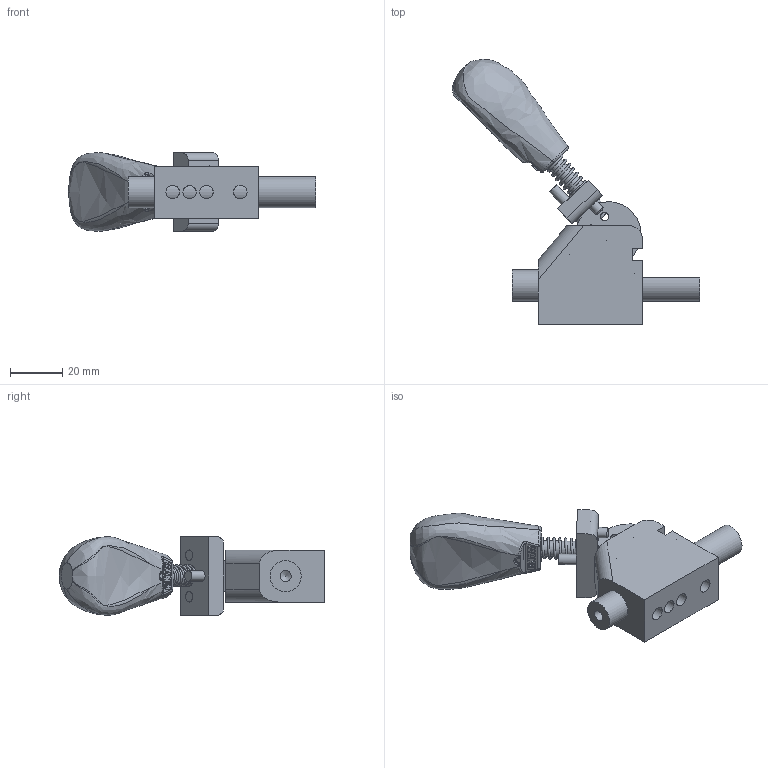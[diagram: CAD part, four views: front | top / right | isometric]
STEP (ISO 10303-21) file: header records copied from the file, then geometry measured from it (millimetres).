
FILE_DESCRIPTION(/* description */ (''),/* implementation_level */ '2;1');
FILE_NAME(/* name */ '\\192.168.1.150\pc03\Inventor\デュアルメカニズムクランプ最終\2017.10月　最新型\YSP-22ST-L\YSP-22ST-L-UNCLAMP.stp',/* time_stamp */ '2024-05-14T16:43:52+09:00',/* author */ ('Backup'),/* organization */ (''),/* preprocessor_version */ 'ST-DEVELOPER v17',/* originating_system */ 'Autodesk Inventor 2019',/* authorisation */ '');
FILE_SCHEMA (('AUTOMOTIVE_DESIGN { 1 0 10303 214 3 1 1 }'));
Length unit declared in the file: millimetre
Products named in the file (10): Assembly10; ボディ 改修後; 50-30_VER4_PG2__12; Φ8×40ｼｬﾌﾄ; カムφ25; YO－M３５S スライドバー; φ4×25; スプリング; ロック機構; φ4×25_1
Assembly tree (10 placements, depth 2):
  Assembly10
    ボディ 改修後
    50-30_VER4_PG2__12
    Φ8×40ｼｬﾌﾄ
    カムφ25
    YO－M３５S スライドバー
    φ4×25  x2
    スプリング
    ロック機構
    φ4×25_1
Bounding box: 95.13 x 102 x 30.18 mm (x, y, z)
Volume: 51353.7 mm3; surface area: 22407.4 mm2
Topology: 10 solids, 10 shells, 233 faces, 644 edges, 431 vertices
Faces by surface type: plane 113, cylinder 85, bspline 25, cone 6, sphere 4
Full cylindrical faces by diameter (mm): 0.01 x12, 1.306 x1, 3 x2, 3.2 x7, 4 x5, 4.1 x1, 4.3 x1, 5.1 x1, 5.2 x3, 6 x3, 6.1 x1, 12 x2
Entity records: 19142 total; most frequent: CARTESIAN_POINT 12882, ORIENTED_EDGE 1268, DIRECTION 1181, EDGE_CURVE 634, VERTEX_POINT 428, AXIS2_PLACEMENT_3D 426, LINE 329, VECTOR 329
